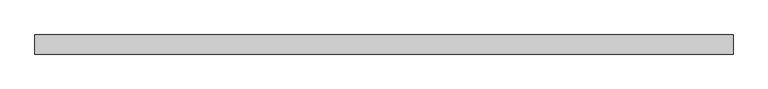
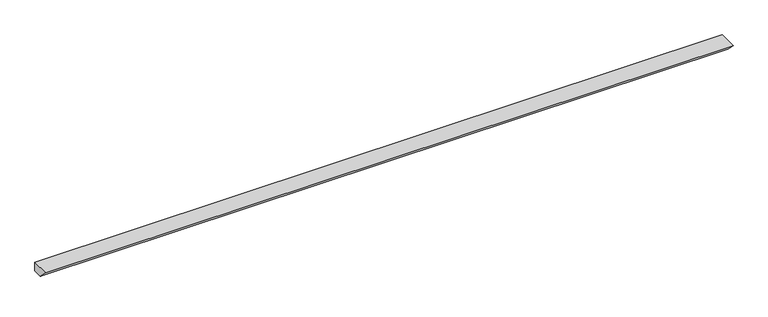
"""IFC4 building model written with IfcOpenShell, lengths in millimetres: proxy geometry, Gousset traverse bord droit : Gousset traverse bord droit."""

from ifc_helpers import new_model, si_unit, frame, origin, place, context, project, spatial, polyline, outline, extrude, source, transform, mapped, element, save


def generic_models_39ab5bcd(model_context):
    return source(origin(), model_context, "Body", "SweptSolid", [
        extrude(outline(polyline([(0.0, -350.0), (0.0, -700.0), (-350.0, -700.0), (-700.0, -350.0), (0.0, -350.0)])), frame((0.0, 0.0, 0.0), z_axis=(1.0, 0.0, 0.0), x_axis=(0.0, 1.0, 0.0)), (0.0, 0.0, 1.0), 25500.0),
    ])


if __name__ == "__main__":
    model = new_model("IFC4")
    model_context = context("Model", 3, world=origin())
    ifc_project = project(units=[si_unit("LENGTHUNIT", "METRE", prefix="MILLI")], contexts=[model_context])
    site = spatial("IfcSite", under=ifc_project)
    building = spatial("IfcBuilding", under=site)
    placement = place(None, origin())
    generic_models_shape = generic_models_39ab5bcd(model_context)
    element("IfcBuildingElementProxy", 1, Name="Gousset traverse bord droit : Gousset traverse bord droit", ObjectType="Gousset traverse bord droit : Gousset traverse bord droit", at=placement, inside=building, context=model_context, shape_type="MappedRepresentation", body=[
        mapped(generic_models_shape, transform((0.0, 0.0, 0.0), x_axis=(1.0, 0.0, 0.0), y_axis=(0.0, 1.0, 0.0), z_axis=(0.0, 0.0, 1.0))),
    ])
    save(model, "model.ifc")
